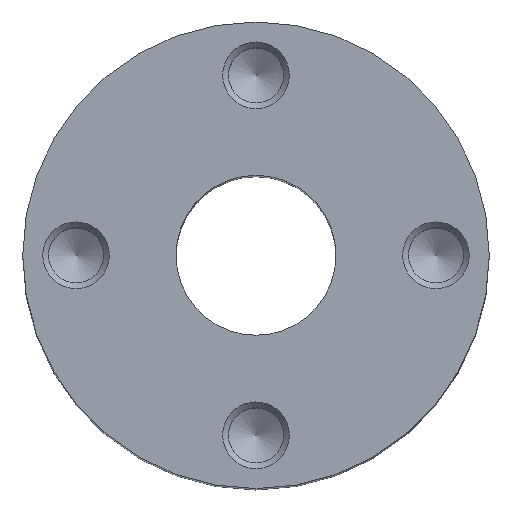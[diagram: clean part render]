
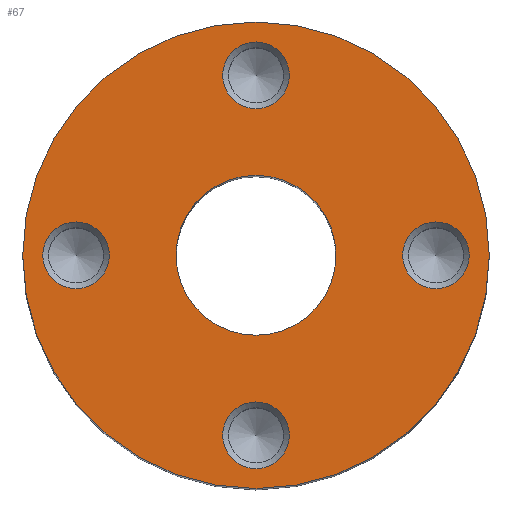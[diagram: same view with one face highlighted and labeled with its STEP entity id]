
A CAD part, top view. The second image highlights one B-rep face of the part: STEP entity #67.
In plain terms, the highlighted planar face has unit normal (0, 0, 1).
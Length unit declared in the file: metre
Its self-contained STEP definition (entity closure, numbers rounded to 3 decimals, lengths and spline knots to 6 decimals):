
#67 = ADVANCED_FACE( '', ( #148, #149, #150, #151, #152, #153 ), #154, .T. );
#148 = FACE_BOUND( '', #243, .T. );
#149 = FACE_BOUND( '', #244, .T. );
#150 = FACE_BOUND( '', #245, .T. );
#151 = FACE_BOUND( '', #246, .T. );
#152 = FACE_OUTER_BOUND( '', #247, .T. );
#153 = FACE_BOUND( '', #248, .T. );
#154 = PLANE( '', #249 );
#243 = EDGE_LOOP( '', ( #354 ) );
#244 = EDGE_LOOP( '', ( #355 ) );
#245 = EDGE_LOOP( '', ( #356 ) );
#246 = EDGE_LOOP( '', ( #357 ) );
#247 = EDGE_LOOP( '', ( #358 ) );
#248 = EDGE_LOOP( '', ( #359 ) );
#249 = AXIS2_PLACEMENT_3D( '', #360, #361, #362 );
#354 = ORIENTED_EDGE( '', *, *, #448, .T. );
#355 = ORIENTED_EDGE( '', *, *, #431, .T. );
#356 = ORIENTED_EDGE( '', *, *, #449, .T. );
#357 = ORIENTED_EDGE( '', *, *, #419, .T. );
#358 = ORIENTED_EDGE( '', *, *, #446, .T. );
#359 = ORIENTED_EDGE( '', *, *, #428, .F. );
#360 = CARTESIAN_POINT( '', ( 0., 0., 0. ) );
#361 = DIRECTION( '', ( 0., 0., 1. ) );
#362 = DIRECTION( '', ( 1., 0., 0. ) );
#419 = EDGE_CURVE( '', #466, #466, #467, .T. );
#428 = EDGE_CURVE( '', #477, #477, #478, .T. );
#431 = EDGE_CURVE( '', #482, #482, #483, .T. );
#446 = EDGE_CURVE( '', #504, #504, #505, .T. );
#448 = EDGE_CURVE( '', #507, #507, #508, .T. );
#449 = EDGE_CURVE( '', #509, #509, #510, .T. );
#466 = VERTEX_POINT( '', #529 );
#467 = CIRCLE( '', #530, 0.0025 );
#477 = VERTEX_POINT( '', #540 );
#478 = CIRCLE( '', #541, 0.006 );
#482 = VERTEX_POINT( '', #545 );
#483 = CIRCLE( '', #546, 0.0025 );
#504 = VERTEX_POINT( '', #567 );
#505 = CIRCLE( '', #568, 0.0175 );
#507 = VERTEX_POINT( '', #570 );
#508 = CIRCLE( '', #571, 0.0025 );
#509 = VERTEX_POINT( '', #572 );
#510 = CIRCLE( '', #573, 0.0025 );
#529 = CARTESIAN_POINT( '', ( 0.016, 0., 0. ) );
#530 = AXIS2_PLACEMENT_3D( '', #592, #593, #594 );
#540 = CARTESIAN_POINT( '', ( 0.006, 0., 0. ) );
#541 = AXIS2_PLACEMENT_3D( '', #604, #605, #606 );
#545 = CARTESIAN_POINT( '', ( -0.016, 0., 0. ) );
#546 = AXIS2_PLACEMENT_3D( '', #610, #611, #612 );
#567 = CARTESIAN_POINT( '', ( 0.0175, 0., 0. ) );
#568 = AXIS2_PLACEMENT_3D( '', #634, #635, #636 );
#570 = CARTESIAN_POINT( '', ( 0., -0.016, 0. ) );
#571 = AXIS2_PLACEMENT_3D( '', #637, #638, #639 );
#572 = CARTESIAN_POINT( '', ( 0., 0.016, 0. ) );
#573 = AXIS2_PLACEMENT_3D( '', #640, #641, #642 );
#592 = CARTESIAN_POINT( '', ( 0.0135, 0., 0. ) );
#593 = DIRECTION( '', ( 0., 0., -1. ) );
#594 = DIRECTION( '', ( 1., 0., 0. ) );
#604 = CARTESIAN_POINT( '', ( 0., 0., 0. ) );
#605 = DIRECTION( '', ( 0., 0., 1. ) );
#606 = DIRECTION( '', ( 1., 0., 0. ) );
#610 = CARTESIAN_POINT( '', ( -0.0135, 0., 0. ) );
#611 = DIRECTION( '', ( 0., 0., -1. ) );
#612 = DIRECTION( '', ( -1., 0., 0. ) );
#634 = CARTESIAN_POINT( '', ( 0., 0., 0. ) );
#635 = DIRECTION( '', ( 0., 0., 1. ) );
#636 = DIRECTION( '', ( 1., 0., 0. ) );
#637 = CARTESIAN_POINT( '', ( 0., -0.0135, 0. ) );
#638 = DIRECTION( '', ( 0., 0., -1. ) );
#639 = DIRECTION( '', ( 0., -1., 0. ) );
#640 = CARTESIAN_POINT( '', ( 0., 0.0135, 0. ) );
#641 = DIRECTION( '', ( 0., 0., -1. ) );
#642 = DIRECTION( '', ( 0., 1., 0. ) );
